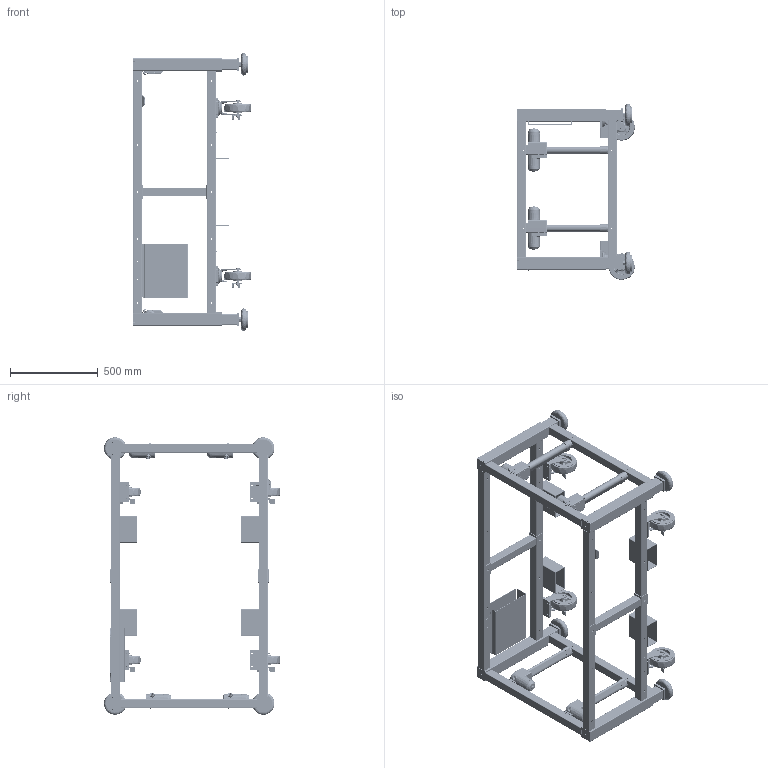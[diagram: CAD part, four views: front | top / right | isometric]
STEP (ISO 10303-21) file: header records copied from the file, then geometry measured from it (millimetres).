
FILE_DESCRIPTION (( 'STEP AP214' ), '1' );
FILE_NAME ('MB3500 60INX36INX26.5IN.STEP', '2020-01-13T14:20:08', ( '' ), ( '' ), 'SwSTEP 2.0', 'SolidWorks 2019', '' );
FILE_SCHEMA (( 'AUTOMOTIVE_DESIGN' ));
Length unit declared in the file: millimetre
Products named in the file (2): MB3500 60INX36INX26.5IN
Bounding box: 672.24 x 1002.87 x 1580.96 mm (x, y, z)
Surface area: 9252385 mm2 (no closed solid volume)
Topology: 0 solids, 185 shells, 10352 faces, 27089 edges, 17083 vertices
Faces by surface type: plane 3768, cylinder 3414, bspline 2114, torus 524, cone 444, sphere 88
Full cylindrical faces by diameter (mm): 1.575 x8, 1.778 x8, 3 x8, 3.3 x8, 4 x2, 4.039 x4, 4.2 x12, 4.252 x8, 4.5 x4, 4.521 x8, 4.6 x1, 4.762 x2, 4.763 x6, 5 x52, 6 x14, 6.5 x16, 6.6 x4, 6.8 x39, 7 x4, 7.117 x8, 7.5 x4, 8 x2, 8.5 x4, 9 x8, 9.7 x8, 10.1 x16, 10.3 x8, 10.5 x44, 11 x12, 12.5 x4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
Entity records: 578861 total; most frequent: CARTESIAN_POINT 235750, ORIENTED_EDGE 49836, DIRECTION 41363, EDGE_CURVE 25408, VERTEX_POINT 16613, AXIS2_PLACEMENT_3D 15161, EDGE_LOOP 12683, FACE_OUTER_BOUND 11091
